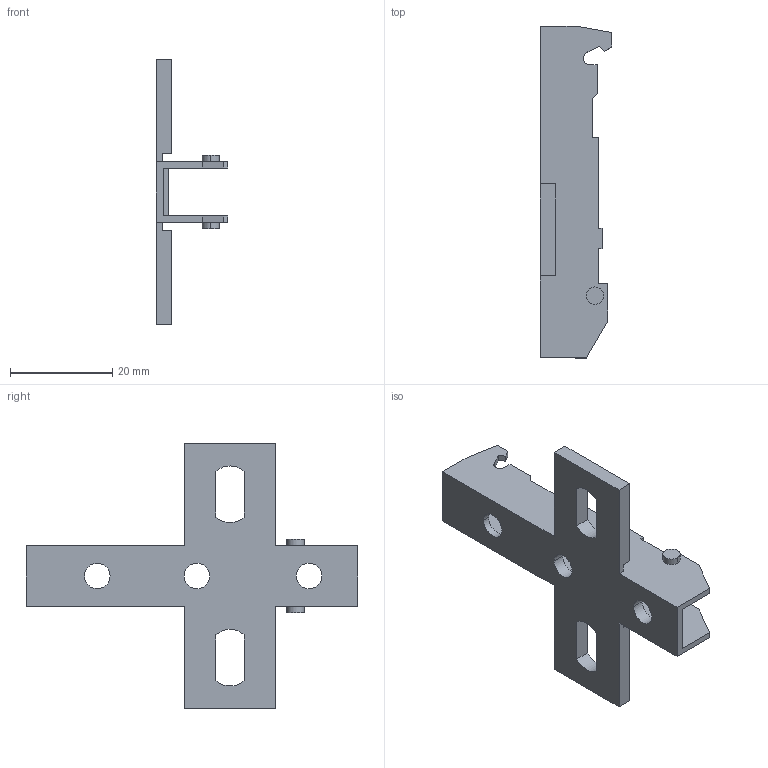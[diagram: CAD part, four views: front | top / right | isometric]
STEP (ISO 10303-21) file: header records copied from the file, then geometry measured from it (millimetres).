
FILE_DESCRIPTION (( 'STEP AP214' ), '1' );
FILE_NAME ('Eco Kreuzmontageplatte LR37_32_Euro_H3,5.step', '2010-11-18T10:06:00', ( 'grass' ), ( '' ), 'SwSTEP 2.0', 'SolidWorks 2010', '' );
FILE_SCHEMA (( 'AUTOMOTIVE_DESIGN' ));
Length unit declared in the file: millimetre
Products named in the file (1): Eco Kreuzmontageplatte LR37_32_Euro_H3,5
Bounding box: 14 x 65 x 52 mm (x, y, z)
Volume: 4560.4 mm3; surface area: 6152.6 mm2
Topology: 1 solids, 1 shells, 84 faces, 240 edges, 160 vertices
Faces by surface type: plane 66, cylinder 18
Entity records: 2774 total; most frequent: CARTESIAN_POINT 485, ORIENTED_EDGE 480, DIRECTION 446, EDGE_CURVE 240, VECTOR 204, LINE 204, VERTEX_POINT 160, AXIS2_PLACEMENT_3D 121
